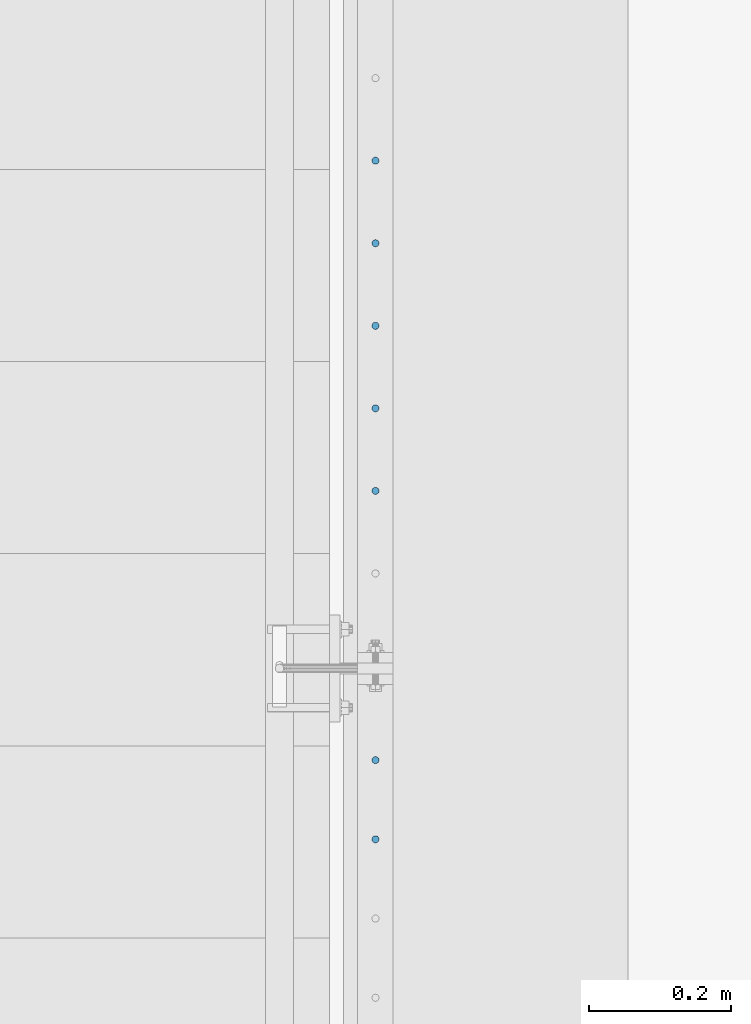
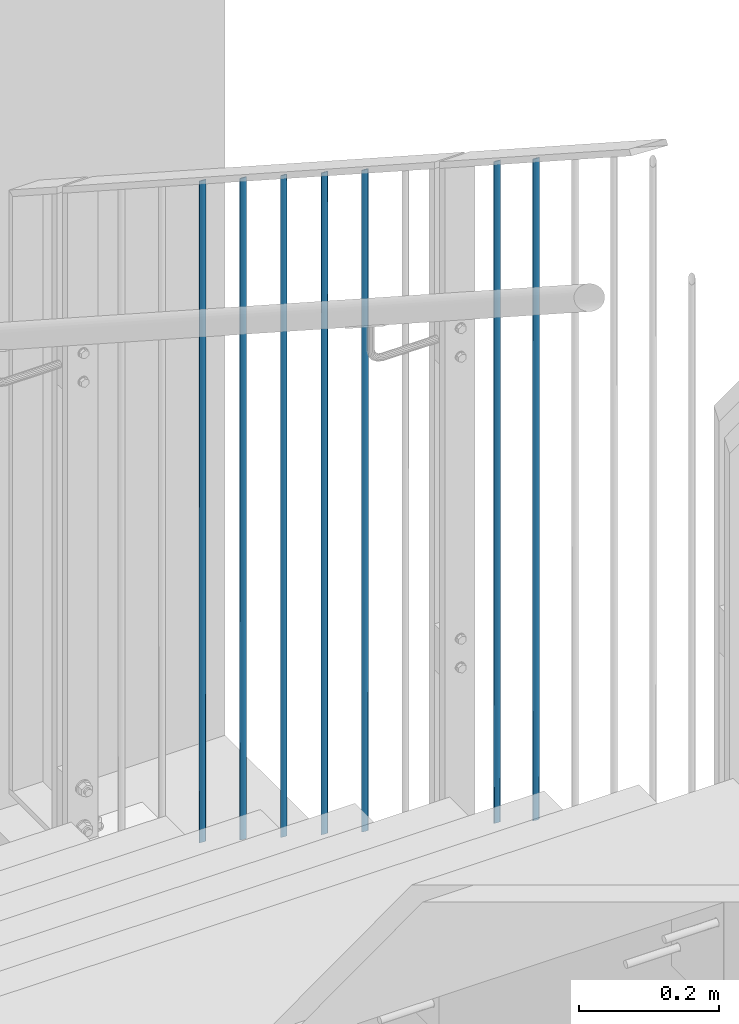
# One storey, part 44 of 296: 7 columns.
"""IFC2X3 building model written with IfcOpenShell, lengths in millimetres."""

from ifc_helpers import new_model, entity, si_unit, converted_unit, frame, origin, origin_with_axes, origin_2d, place, context, project, spatial, circle, extrude, clip, halfspace, material, element, save


model = new_model("IFC2X3")

# Units and contexts
model_context = context("Model", 3, precision=1e-09, world=origin_with_axes())
ifc_project = project(units=[si_unit("LENGTHUNIT", "METRE", prefix="MILLI"), si_unit("AREAUNIT", "SQUARE_METRE"), si_unit("VOLUMEUNIT", "CUBIC_METRE"), converted_unit("PLANEANGLEUNIT", "DEGREE", entity("IfcPlaneAngleMeasure", 0.01745329), si_unit("PLANEANGLEUNIT", "RADIAN"), dimensions=[0, 0, 0, 0, 0, 0, 0])], contexts=[model_context])

# Site, building, storey
site_placement = place(None, origin_with_axes())
site = spatial("IfcSite", under=ifc_project, at=site_placement, Name="TZD-S?d | Treppenhausgel?nder", CompositionType="ELEMENT")
building_placement = place(site_placement, origin_with_axes())
building = spatial("IfcBuilding", under=site, at=building_placement, Name="Struktur 1", CompositionType="ELEMENT")
storey_placement = place(building_placement, origin_with_axes())
storey = spatial("IfcBuildingStorey", under=building, at=storey_placement, Name="Default Storey", CompositionType="ELEMENT", Elevation=0.0)

# Columns
ifc_material = material(Name="S235JR")
column_1_placement = place(None, frame((5894.999, -1760.357143, 3679.806825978), z_axis=(0.0, 0.0, -1.0), x_axis=(0.0, 1.0, 0.0)))
element("IfcColumn", 1, at=column_1_placement, inside=storey, material=ifc_material, Name="-", ObjectType="-", context=model_context, shape_type="Clipping", body=[
    clip(clip(extrude(circle(Radius=5.0, at=origin_2d()), origin(), (0.0, 0.0, -1.0), 1184.932529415), halfspace(frame((2925.776227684, -5894.999, 1877.331292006), z_axis=(0.542959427, 0.0, -0.83975893), x_axis=(0.0, -1.0, 0.0)), True)), halfspace(frame((3452.942885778, -5894.999, 1061.997978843), z_axis=(-0.542959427, 0.0, 0.83975893), x_axis=(0.0, 1.0, 0.0)), True)),
])
column_2_placement = place(None, frame((5894.999, -1648.9285716, 3607.760919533), z_axis=(0.0, 0.0, -1.0), x_axis=(0.0, 1.0, 0.0)))
element("IfcColumn", 2, at=column_2_placement, inside=storey, material=ifc_material, Name="-", ObjectType="-", context=model_context, shape_type="Clipping", body=[
    clip(clip(extrude(circle(Radius=5.0, at=origin_2d()), origin(), (0.0, 0.0, -1.0), 1184.932529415), halfspace(frame((3341.514314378, -5894.999, 989.952072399), z_axis=(-0.542959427, 0.0, 0.83975893), x_axis=(0.0, 1.0, 0.0)), True)), halfspace(frame((2814.347656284, -5894.999, 1805.285385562), z_axis=(0.542959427, 0.0, -0.83975893), x_axis=(0.0, -1.0, 0.0)), True)),
])
column_3_placement = place(None, frame((5894.999, -1270.2777778, 3362.938255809), z_axis=(0.0, 0.0, -1.0), x_axis=(0.0, 1.0, 0.0)))
element("IfcColumn", 3, at=column_3_placement, inside=storey, material=ifc_material, Name="-", ObjectType="-", context=model_context, shape_type="Clipping", body=[
    clip(clip(extrude(circle(Radius=5.0, at=origin_2d()), origin(), (0.0, 0.0, -1.0), 1184.932529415), halfspace(frame((2962.863520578, -5894.999, 745.129408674), z_axis=(-0.542959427, 0.0, 0.83975893), x_axis=(0.0, 1.0, 0.0)), True)), halfspace(frame((2435.696862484, -5894.999, 1560.462721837), z_axis=(0.542959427, 0.0, -0.83975893), x_axis=(0.0, -1.0, 0.0)), True)),
])
column_4_placement = place(None, frame((5894.999, -1154.1666667, 3287.86477921), z_axis=(0.0, 0.0, -1.0), x_axis=(0.0, 1.0, 0.0)))
element("IfcColumn", 4, at=column_4_placement, inside=storey, material=ifc_material, Name="-", ObjectType="-", context=model_context, shape_type="Clipping", body=[
    clip(clip(extrude(circle(Radius=5.0, at=origin_2d()), origin(), (0.0, 0.0, -1.0), 1184.932529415), halfspace(frame((2846.752409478, -5894.999, 670.055932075), z_axis=(-0.542959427, 0.0, 0.83975893), x_axis=(0.0, 1.0, 0.0)), True)), halfspace(frame((2319.585751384, -5894.999, 1485.389245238), z_axis=(0.542959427, 0.0, -0.83975893), x_axis=(0.0, -1.0, 0.0)), True)),
])
column_5_placement = place(None, frame((5894.999, -1038.0555556, 3212.791302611), z_axis=(0.0, 0.0, -1.0), x_axis=(0.0, 1.0, 0.0)))
element("IfcColumn", 5, at=column_5_placement, inside=storey, material=ifc_material, Name="-", ObjectType="-", context=model_context, shape_type="Clipping", body=[
    clip(clip(extrude(circle(Radius=5.0, at=origin_2d()), origin(), (0.0, 0.0, -1.0), 1184.932529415), halfspace(frame((2730.641298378, -5894.999, 594.982455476), z_axis=(-0.542959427, 0.0, 0.83975893), x_axis=(0.0, 1.0, 0.0)), True)), halfspace(frame((2203.474640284, -5894.999, 1410.315768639), z_axis=(0.542959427, 0.0, -0.83975893), x_axis=(0.0, -1.0, 0.0)), True)),
])
column_6_placement = place(None, frame((5894.999, -921.9444445, 3137.717826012), z_axis=(0.0, 0.0, -1.0), x_axis=(0.0, 1.0, 0.0)))
element("IfcColumn", 6, at=column_6_placement, inside=storey, material=ifc_material, Name="-", ObjectType="-", context=model_context, shape_type="Clipping", body=[
    clip(clip(extrude(circle(Radius=5.0, at=origin_2d()), origin(), (0.0, 0.0, -1.0), 1184.932529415), halfspace(frame((2614.530187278, -5894.999, 519.908978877), z_axis=(-0.542959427, 0.0, 0.83975893), x_axis=(0.0, 1.0, 0.0)), True)), halfspace(frame((2087.363529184, -5894.999, 1335.24229204), z_axis=(0.542959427, 0.0, -0.83975893), x_axis=(0.0, -1.0, 0.0)), True)),
])
column_7_placement = place(None, frame((5894.999, -805.8333334, 3062.644349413), z_axis=(0.0, 0.0, -1.0), x_axis=(0.0, 1.0, 0.0)))
element("IfcColumn", 7, at=column_7_placement, inside=storey, material=ifc_material, Name="-", ObjectType="-", context=model_context, shape_type="Clipping", body=[
    clip(clip(extrude(circle(Radius=5.0, at=origin_2d()), origin(), (0.0, 0.0, -1.0), 1184.932529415), halfspace(frame((2498.419076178, -5894.999, 444.835502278), z_axis=(-0.542959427, 0.0, 0.83975893), x_axis=(0.0, 1.0, 0.0)), True)), halfspace(frame((1971.252418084, -5894.999, 1260.168815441), z_axis=(0.542959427, 0.0, -0.83975893), x_axis=(0.0, -1.0, 0.0)), True)),
])

save(model, "model.ifc")
